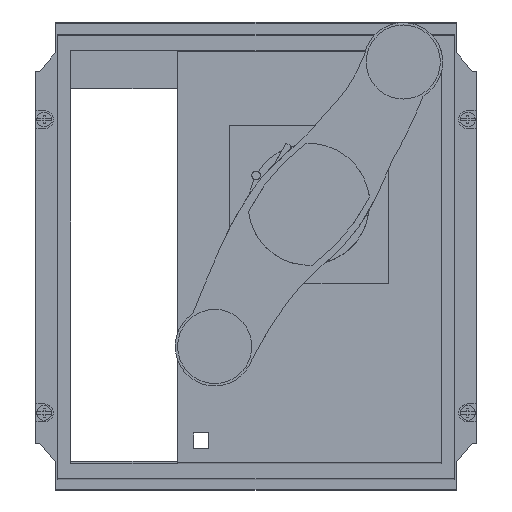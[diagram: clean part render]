
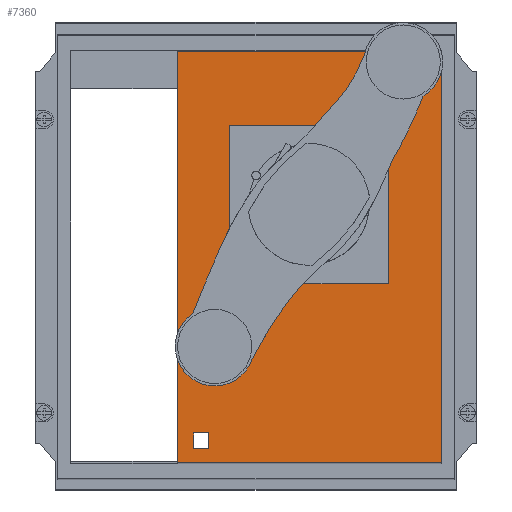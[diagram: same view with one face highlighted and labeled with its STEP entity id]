
A CAD part, top view. The second image highlights one B-rep face of the part: STEP entity #7360.
In plain terms, the highlighted planar face has unit normal (0, 0, 1).
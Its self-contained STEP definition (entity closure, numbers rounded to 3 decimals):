
#2746=DIRECTION('',(1.,0.,0.));
#2747=VECTOR('',#2746,124.69);
#2748=CARTESIAN_POINT('',(66.71,12.709,90.5));
#2749=LINE('',#2748,#2747);
#2774=DIRECTION('',(0.,1.,0.));
#2775=VECTOR('',#2774,194.39);
#2776=CARTESIAN_POINT('',(66.71,12.709,90.5));
#2777=LINE('',#2776,#2775);
#2781=DIRECTION('',(1.,0.,0.));
#2782=VECTOR('',#2781,124.69);
#2783=CARTESIAN_POINT('',(66.71,207.099,90.5));
#2784=LINE('',#2783,#2782);
#2788=DIRECTION('',(0.,-1.,0.));
#2789=VECTOR('',#2788,194.39);
#2790=CARTESIAN_POINT('',(191.4,207.099,90.5));
#2791=LINE('',#2790,#2789);
#2795=CARTESIAN_POINT('',(128.9,133.9,90.5));
#2796=DIRECTION('',(0.,0.,1.));
#2797=DIRECTION('',(1.,0.,0.));
#2798=AXIS2_PLACEMENT_3D('',#2795,#2796,#2797);
#2803=CARTESIAN_POINT('',(128.9,133.9,90.5));
#2804=DIRECTION('',(0.,0.,1.));
#2805=DIRECTION('',(-1.,0.,0.));
#2806=AXIS2_PLACEMENT_3D('',#2803,#2804,#2805);
#2811=DIRECTION('',(0.,-1.,0.));
#2812=VECTOR('',#2811,7.2);
#2813=CARTESIAN_POINT('',(74.4,26.8,90.5));
#2814=LINE('',#2813,#2812);
#2818=DIRECTION('',(1.,0.,0.));
#2819=VECTOR('',#2818,7.2);
#2820=CARTESIAN_POINT('',(74.4,19.6,90.5));
#2821=LINE('',#2820,#2819);
#2825=DIRECTION('',(0.,1.,0.));
#2826=VECTOR('',#2825,7.2);
#2827=CARTESIAN_POINT('',(81.6,19.6,90.5));
#2828=LINE('',#2827,#2826);
#2832=DIRECTION('',(-1.,0.,0.));
#2833=VECTOR('',#2832,7.2);
#2834=CARTESIAN_POINT('',(81.6,26.8,90.5));
#2835=LINE('',#2834,#2833);
#3815=CARTESIAN_POINT('',(191.4,207.099,90.5));
#3816=VERTEX_POINT('',#3815);
#3817=CARTESIAN_POINT('',(191.4,12.709,90.5));
#3818=VERTEX_POINT('',#3817);
#3823=CARTESIAN_POINT('',(66.71,12.709,90.5));
#3824=CARTESIAN_POINT('',(66.71,207.099,90.5));
#3825=VERTEX_POINT('',#3823);
#3826=VERTEX_POINT('',#3824);
#4067=CARTESIAN_POINT('',(74.4,26.8,90.5));
#4068=CARTESIAN_POINT('',(74.4,19.6,90.5));
#4069=VERTEX_POINT('',#4067);
#4070=VERTEX_POINT('',#4068);
#4071=CARTESIAN_POINT('',(81.6,19.6,90.5));
#4072=VERTEX_POINT('',#4071);
#4073=CARTESIAN_POINT('',(81.6,26.8,90.5));
#4074=VERTEX_POINT('',#4073);
#4155=CARTESIAN_POINT('',(156.8,133.9,90.5));
#4156=CARTESIAN_POINT('',(101.,133.9,90.5));
#4157=VERTEX_POINT('',#4155);
#4158=VERTEX_POINT('',#4156);
#7333=CARTESIAN_POINT('',(0.,207.099,90.5));
#7334=DIRECTION('',(0.,0.,1.));
#7335=DIRECTION('',(0.,-1.,0.));
#7336=AXIS2_PLACEMENT_3D('',#7333,#7334,#7335);
#7337=PLANE('',#7336);
#7338=ORIENTED_EDGE('',*,*,#7250,.T.);
#7339=ORIENTED_EDGE('',*,*,#7298,.T.);
#7340=ORIENTED_EDGE('',*,*,#7312,.T.);
#7341=ORIENTED_EDGE('',*,*,#7324,.F.);
#7342=EDGE_LOOP('',(#7338,#7339,#7340,#7341));
#7343=FACE_OUTER_BOUND('',#7342,.F.);
#7345=ORIENTED_EDGE('',*,*,#7344,.T.);
#7347=ORIENTED_EDGE('',*,*,#7346,.T.);
#7348=EDGE_LOOP('',(#7345,#7347));
#7349=FACE_BOUND('',#7348,.F.);
#7351=ORIENTED_EDGE('',*,*,#7350,.T.);
#7353=ORIENTED_EDGE('',*,*,#7352,.T.);
#7355=ORIENTED_EDGE('',*,*,#7354,.T.);
#7357=ORIENTED_EDGE('',*,*,#7356,.T.);
#7358=EDGE_LOOP('',(#7351,#7353,#7355,#7357));
#7359=FACE_BOUND('',#7358,.F.);
#2799=CIRCLE('',#2798,27.9);
#2807=CIRCLE('',#2806,27.9);
#7250=EDGE_CURVE('',#3825,#3826,#2777,.T.);
#7298=EDGE_CURVE('',#3826,#3816,#2784,.T.);
#7312=EDGE_CURVE('',#3816,#3818,#2791,.T.);
#7324=EDGE_CURVE('',#3825,#3818,#2749,.T.);
#7344=EDGE_CURVE('',#4157,#4158,#2799,.T.);
#7346=EDGE_CURVE('',#4158,#4157,#2807,.T.);
#7350=EDGE_CURVE('',#4069,#4070,#2814,.T.);
#7352=EDGE_CURVE('',#4070,#4072,#2821,.T.);
#7354=EDGE_CURVE('',#4072,#4074,#2828,.T.);
#7356=EDGE_CURVE('',#4074,#4069,#2835,.T.);
#7360=ADVANCED_FACE('',(#7343,#7349,#7359),#7337,.T.);
